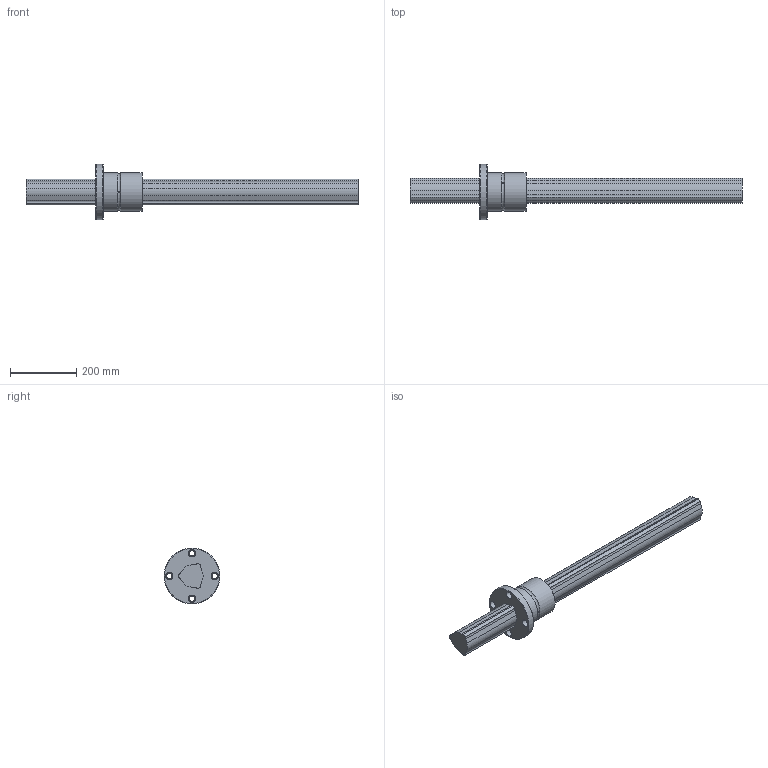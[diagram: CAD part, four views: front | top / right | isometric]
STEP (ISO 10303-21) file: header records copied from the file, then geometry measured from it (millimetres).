
FILE_DESCRIPTION(/* description */ ('STEP AP214'),/* implementation_level */ '2;1');
FILE_NAME(/* name */ 'LBF85+1000L(10002100)',/* time_stamp */ '2024-09-04T13:03:47+02:00',/* author */ ('License CC BY-ND 4.0'),/* organization */ ('CADENAS'),/* preprocessor_version */ 'ST-DEVELOPER v19.3',/* originating_system */ 'PARTsolutions',/* authorisation */ ' ');
FILE_SCHEMA (('AUTOMOTIVE_DESIGN {1 0 10303 214 3 1 1}'));
Length unit declared in the file: millimetre
Products named in the file (3): LBF85+1000L(10002100); LBF8511000 Spline Shaft; LBF85 Nut
Assembly tree (2 placements, depth 2):
  LBF85+1000L(10002100)
    LBF8511000 Spline Shaft
    LBF85 Nut
Bounding box: 1000 x 168 x 168 mm (x, y, z)
Volume: 5090543.7 mm3; surface area: 381487.6 mm2
Topology: 2 solids, 2 shells, 66 faces, 164 edges, 110 vertices
Faces by surface type: cylinder 38, plane 24, torus 2, cone 2
Full cylindrical faces by diameter (mm): 5 x3, 16 x4, 23 x4, 115 x2, 168 x1
Entity records: 1978 total; most frequent: CARTESIAN_POINT 353, DIRECTION 350, ORIENTED_EDGE 278, AXIS2_PLACEMENT_3D 145, EDGE_CURVE 139, VERTEX_POINT 103, EDGE_LOOP 102, FACE_BOUND 102
